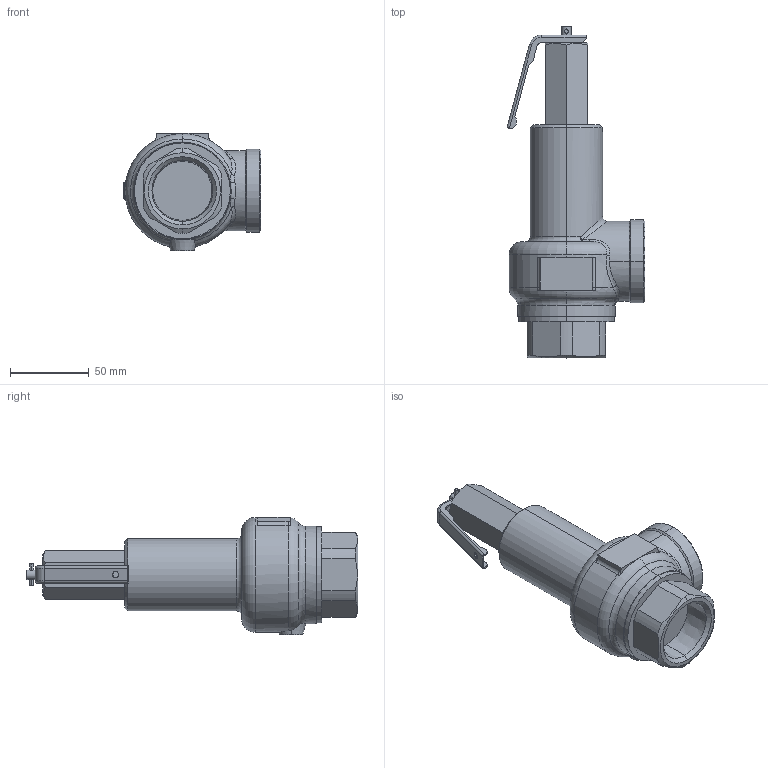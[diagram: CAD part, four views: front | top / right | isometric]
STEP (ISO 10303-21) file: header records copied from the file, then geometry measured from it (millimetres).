
FILE_DESCRIPTION (( 'STEP AP203' ), '1' );
FILE_NAME ('AL-150TML 32A.STEP', '2026-01-08T02:26:34', ( '' ), ( '' ), 'SwSTEP 2.0', 'SolidWorks 2024', '' );
FILE_SCHEMA (( 'CONFIG_CONTROL_DESIGN' ));
Length unit declared in the file: millimetre
Products named in the file (3): AL-12 Lever; AL-150TML 32A(Non-Lever); AL-150TML 32A
Assembly tree (2 placements, depth 2):
  AL-150TML 32A
    AL-150TML 32A(Non-Lever)
    AL-12 Lever
Bounding box: 87.77 x 211.25 x 74.5 mm (x, y, z)
Volume: 400862.5 mm3; surface area: 47785.9 mm2
Topology: 2 solids, 2 shells, 158 faces, 390 edges, 241 vertices
Faces by surface type: cylinder 53, plane 51, cone 24, torus 16, bspline 12, sphere 2
Entity records: 6137 total; most frequent: CARTESIAN_POINT 2138, DIRECTION 790, ORIENTED_EDGE 776, EDGE_CURVE 388, AXIS2_PLACEMENT_3D 313, VERTEX_POINT 241, EDGE_LOOP 169, VECTOR 164
